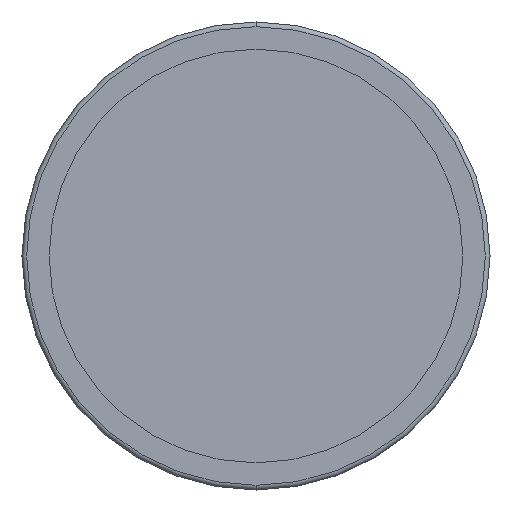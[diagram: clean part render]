
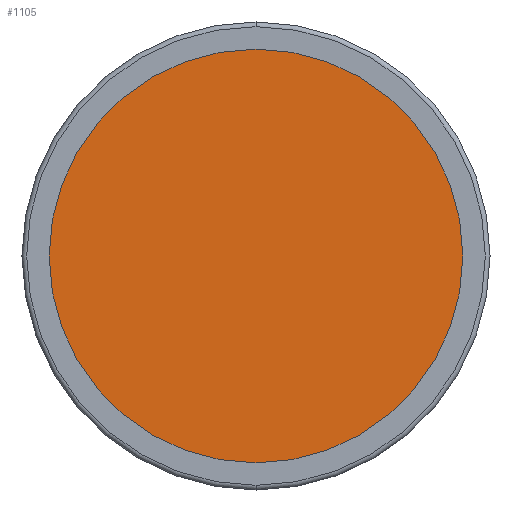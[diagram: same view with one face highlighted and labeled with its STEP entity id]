
A CAD part, front view. The second image highlights one B-rep face of the part: STEP entity #1105.
In plain terms, the highlighted planar face has unit normal (0, -1, 0).
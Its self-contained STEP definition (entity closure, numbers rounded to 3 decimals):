
#24 = AXIS2_PLACEMENT_3D ( 'NONE', #2011, #1444, #129 ) ;
#97 = DIRECTION ( 'NONE',  ( 0., 0., -1. ) ) ;
#102 = DIRECTION ( 'NONE',  ( 0., 1., 0. ) ) ;
#129 = DIRECTION ( 'NONE',  ( 0., 0., 1. ) ) ;
#149 = EDGE_CURVE ( 'NONE', #1846, #1076, #1884, .T. ) ;
#310 = AXIS2_PLACEMENT_3D ( 'NONE', #1029, #102, #679 ) ;
#434 = ORIENTED_EDGE ( 'NONE', *, *, #149, .F. ) ;
#438 = ORIENTED_EDGE ( 'NONE', *, *, #825, .F. ) ;
#679 = DIRECTION ( 'NONE',  ( 0., 0., 1. ) ) ;
#825 = EDGE_CURVE ( 'NONE', #1076, #1846, #1007, .T. ) ;
#859 = CARTESIAN_POINT ( 'NONE',  ( 0., -3., 43.75 ) ) ;
#1007 = CIRCLE ( 'NONE', #310, 43.75 ) ;
#1029 = CARTESIAN_POINT ( 'NONE',  ( 0., -3., 0. ) ) ;
#1055 = EDGE_LOOP ( 'NONE', ( #434, #438 ) ) ;
#1076 = VERTEX_POINT ( 'NONE', #1155 ) ;
#1105 = ADVANCED_FACE ( 'NONE', ( #1519 ), #2283, .T. ) ;
#1155 = CARTESIAN_POINT ( 'NONE',  ( 0., -3., -43.75 ) ) ;
#1213 = DIRECTION ( 'NONE',  ( 0., -1., 0. ) ) ;
#1444 = DIRECTION ( 'NONE',  ( 0., 1., 0. ) ) ;
#1519 = FACE_OUTER_BOUND ( 'NONE', #1055, .T. ) ;
#1748 = CARTESIAN_POINT ( 'NONE',  ( -43.75, -3., 0. ) ) ;
#1846 = VERTEX_POINT ( 'NONE', #859 ) ;
#1884 = CIRCLE ( 'NONE', #24, 43.75 ) ;
#2011 = CARTESIAN_POINT ( 'NONE',  ( 0., -3., 0. ) ) ;
#2171 = AXIS2_PLACEMENT_3D ( 'NONE', #1748, #1213, #97 ) ;
#2283 = PLANE ( 'NONE',  #2171 ) ;
